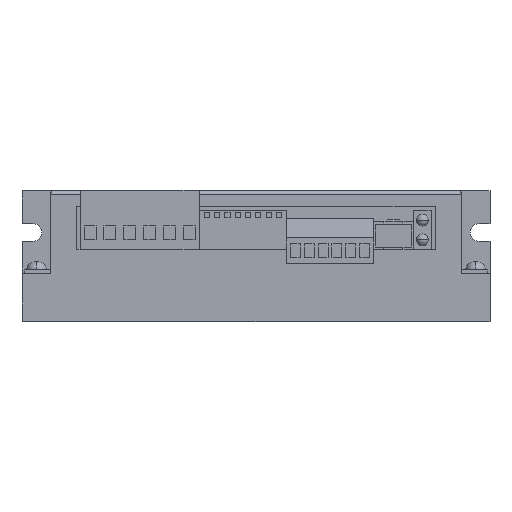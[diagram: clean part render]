
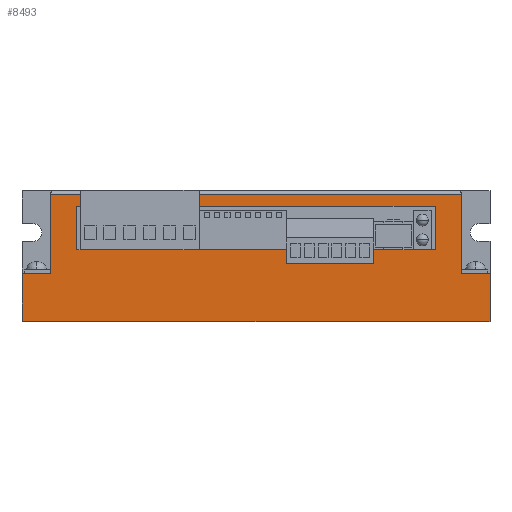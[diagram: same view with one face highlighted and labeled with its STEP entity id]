
A CAD part, top view. The second image highlights one B-rep face of the part: STEP entity #8493.
In plain terms, the highlighted planar face has unit normal (0, 0, 1).
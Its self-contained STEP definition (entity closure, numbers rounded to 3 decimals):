
#74 = EDGE_CURVE ( 'NONE', #10582, #11970, #9123, .T. ) ;
#314 = CARTESIAN_POINT ( 'NONE',  ( 44.66, 18., 0. ) ) ;
#565 = VERTEX_POINT ( 'NONE', #7593 ) ;
#597 = LINE ( 'NONE', #2019, #7292 ) ;
#724 = LINE ( 'NONE', #9328, #5635 ) ;
#764 = ORIENTED_EDGE ( 'NONE', *, *, #10731, .F. ) ;
#882 = ORIENTED_EDGE ( 'NONE', *, *, #11820, .F. ) ;
#951 = VECTOR ( 'NONE', #8562, 1000. ) ;
#1067 = EDGE_CURVE ( 'NONE', #3164, #9899, #3506, .T. ) ;
#1198 = DIRECTION ( 'NONE',  ( 0., -1., 0. ) ) ;
#1351 = CARTESIAN_POINT ( 'NONE',  ( 13.66, 29., 0. ) ) ;
#1387 = EDGE_CURVE ( 'NONE', #11769, #11732, #3151, .T. ) ;
#1500 = LINE ( 'NONE', #12243, #3419 ) ;
#2019 = CARTESIAN_POINT ( 'NONE',  ( 104.16, 18., 0. ) ) ;
#2063 = VERTEX_POINT ( 'NONE', #13768 ) ;
#2085 = DIRECTION ( 'NONE',  ( 0., -1., 0. ) ) ;
#2094 = VECTOR ( 'NONE', #4567, 1000. ) ;
#2145 = VERTEX_POINT ( 'NONE', #7580 ) ;
#2363 = DIRECTION ( 'NONE',  ( 1., 0., 0. ) ) ;
#2380 = CARTESIAN_POINT ( 'NONE',  ( 104.16, 18., 0. ) ) ;
#2439 = DIRECTION ( 'NONE',  ( 1., 0., 0. ) ) ;
#2503 = DIRECTION ( 'NONE',  ( 1., 0., 0. ) ) ;
#2528 = EDGE_CURVE ( 'NONE', #8069, #10961, #4288, .T. ) ;
#2557 = CARTESIAN_POINT ( 'NONE',  ( 98.66, 18., 0. ) ) ;
#2856 = VECTOR ( 'NONE', #5823, 1000. ) ;
#2943 = CARTESIAN_POINT ( 'NONE',  ( 66.66, 18., 0. ) ) ;
#3151 = LINE ( 'NONE', #11822, #3976 ) ;
#3164 = VERTEX_POINT ( 'NONE', #1351 ) ;
#3419 = VECTOR ( 'NONE', #2503, 1000. ) ;
#3501 = CARTESIAN_POINT ( 'NONE',  ( 104.16, 18., 0. ) ) ;
#3506 = LINE ( 'NONE', #5721, #6703 ) ;
#3558 = ORIENTED_EDGE ( 'NONE', *, *, #2528, .T. ) ;
#3756 = EDGE_CURVE ( 'NONE', #11970, #4265, #6704, .T. ) ;
#3957 = ORIENTED_EDGE ( 'NONE', *, *, #4519, .F. ) ;
#3976 = VECTOR ( 'NONE', #6695, 1000. ) ;
#4044 = EDGE_CURVE ( 'NONE', #9899, #2145, #724, .T. ) ;
#4265 = VERTEX_POINT ( 'NONE', #2557 ) ;
#4288 = LINE ( 'NONE', #7768, #11275 ) ;
#4337 = ORIENTED_EDGE ( 'NONE', *, *, #10964, .T. ) ;
#4519 = EDGE_CURVE ( 'NONE', #2145, #10582, #5851, .T. ) ;
#4567 = DIRECTION ( 'NONE',  ( -1., 0., 0. ) ) ;
#4708 = VERTEX_POINT ( 'NONE', #12952 ) ;
#4729 = VECTOR ( 'NONE', #2439, 1000. ) ;
#4878 = ORIENTED_EDGE ( 'NONE', *, *, #4044, .F. ) ;
#4962 = ORIENTED_EDGE ( 'NONE', *, *, #1067, .F. ) ;
#5012 = EDGE_CURVE ( 'NONE', #2063, #565, #10448, .T. ) ;
#5044 = CARTESIAN_POINT ( 'NONE',  ( 118., 33., 0. ) ) ;
#5199 = VERTEX_POINT ( 'NONE', #2380 ) ;
#5484 = ORIENTED_EDGE ( 'NONE', *, *, #6533, .F. ) ;
#5635 = VECTOR ( 'NONE', #8255, 1000. ) ;
#5721 = CARTESIAN_POINT ( 'NONE',  ( 13.66, 18., 0. ) ) ;
#5823 = DIRECTION ( 'NONE',  ( 0., -1., 0. ) ) ;
#5851 = LINE ( 'NONE', #6917, #7177 ) ;
#5937 = DIRECTION ( 'NONE',  ( 1., 0., 0. ) ) ;
#5954 = VERTEX_POINT ( 'NONE', #11667 ) ;
#5961 = LINE ( 'NONE', #8226, #2856 ) ;
#6237 = CARTESIAN_POINT ( 'NONE',  ( 104.16, 29., 0. ) ) ;
#6503 = ORIENTED_EDGE ( 'NONE', *, *, #5012, .F. ) ;
#6533 = EDGE_CURVE ( 'NONE', #11769, #5954, #5961, .T. ) ;
#6695 = DIRECTION ( 'NONE',  ( -1., 0., 0. ) ) ;
#6703 = VECTOR ( 'NONE', #11394, 1000. ) ;
#6704 = LINE ( 'NONE', #7772, #4729 ) ;
#6777 = LINE ( 'NONE', #12172, #2094 ) ;
#6917 = CARTESIAN_POINT ( 'NONE',  ( 0., 18., 0. ) ) ;
#6937 = LINE ( 'NONE', #7934, #8448 ) ;
#7057 = DIRECTION ( 'NONE',  ( 1., 0., 0. ) ) ;
#7078 = CARTESIAN_POINT ( 'NONE',  ( 0., 12., 0. ) ) ;
#7177 = VECTOR ( 'NONE', #7057, 1000. ) ;
#7214 = DIRECTION ( 'NONE',  ( 1., 0., 0. ) ) ;
#7292 = VECTOR ( 'NONE', #7214, 1000. ) ;
#7381 = ORIENTED_EDGE ( 'NONE', *, *, #11767, .F. ) ;
#7410 = CARTESIAN_POINT ( 'NONE',  ( 7.14, 12., 0. ) ) ;
#7570 = VECTOR ( 'NONE', #8440, 1000. ) ;
#7580 = CARTESIAN_POINT ( 'NONE',  ( 14.66, 18., 0. ) ) ;
#7589 = CARTESIAN_POINT ( 'NONE',  ( 0., 12., 0. ) ) ;
#7593 = CARTESIAN_POINT ( 'NONE',  ( 118., 0., 0. ) ) ;
#7677 = DIRECTION ( 'NONE',  ( 0., 0., -1. ) ) ;
#7750 = ORIENTED_EDGE ( 'NONE', *, *, #13584, .F. ) ;
#7768 = CARTESIAN_POINT ( 'NONE',  ( 0., 33., 0. ) ) ;
#7772 = CARTESIAN_POINT ( 'NONE',  ( 104.16, 18., 0. ) ) ;
#7934 = CARTESIAN_POINT ( 'NONE',  ( 7.14, 33., 0. ) ) ;
#8069 = VERTEX_POINT ( 'NONE', #7589 ) ;
#8203 = CARTESIAN_POINT ( 'NONE',  ( 110.86, 32., 0. ) ) ;
#8226 = CARTESIAN_POINT ( 'NONE',  ( 110.86, 33., 0. ) ) ;
#8255 = DIRECTION ( 'NONE',  ( 1., 0., 0. ) ) ;
#8292 = ORIENTED_EDGE ( 'NONE', *, *, #12599, .F. ) ;
#8440 = DIRECTION ( 'NONE',  ( 0., 1., 0. ) ) ;
#8448 = VECTOR ( 'NONE', #13471, 1000. ) ;
#8493 = ADVANCED_FACE ( 'NONE', ( #13153, #10936 ), #8737, .F. ) ;
#8562 = DIRECTION ( 'NONE',  ( 1., 0., 0. ) ) ;
#8737 = PLANE ( 'NONE',  #11303 ) ;
#8815 = ORIENTED_EDGE ( 'NONE', *, *, #1387, .T. ) ;
#8939 = ORIENTED_EDGE ( 'NONE', *, *, #74, .F. ) ;
#9123 = LINE ( 'NONE', #3501, #11659 ) ;
#9278 = LINE ( 'NONE', #7078, #11168 ) ;
#9328 = CARTESIAN_POINT ( 'NONE',  ( 104.16, 18., 0. ) ) ;
#9448 = VECTOR ( 'NONE', #12652, 1000. ) ;
#9463 = ORIENTED_EDGE ( 'NONE', *, *, #3756, .F. ) ;
#9625 = LINE ( 'NONE', #13966, #951 ) ;
#9644 = LINE ( 'NONE', #6237, #7570 ) ;
#9899 = VERTEX_POINT ( 'NONE', #11574 ) ;
#10247 = CARTESIAN_POINT ( 'NONE',  ( 0., 0., 0. ) ) ;
#10448 = LINE ( 'NONE', #5044, #9448 ) ;
#10582 = VERTEX_POINT ( 'NONE', #314 ) ;
#10731 = EDGE_CURVE ( 'NONE', #4265, #5199, #597, .T. ) ;
#10936 = FACE_OUTER_BOUND ( 'NONE', #12919, .T. ) ;
#10961 = VERTEX_POINT ( 'NONE', #10247 ) ;
#10964 = EDGE_CURVE ( 'NONE', #10961, #565, #1500, .T. ) ;
#11168 = VECTOR ( 'NONE', #5937, 1000. ) ;
#11275 = VECTOR ( 'NONE', #2085, 1000. ) ;
#11303 = AXIS2_PLACEMENT_3D ( 'NONE', #13078, #7677, #1198 ) ;
#11394 = DIRECTION ( 'NONE',  ( 0., -1., 0. ) ) ;
#11574 = CARTESIAN_POINT ( 'NONE',  ( 13.66, 18., 0. ) ) ;
#11659 = VECTOR ( 'NONE', #2363, 1000. ) ;
#11667 = CARTESIAN_POINT ( 'NONE',  ( 110.86, 12., 0. ) ) ;
#11732 = VERTEX_POINT ( 'NONE', #12478 ) ;
#11767 = EDGE_CURVE ( 'NONE', #8069, #12836, #9278, .T. ) ;
#11769 = VERTEX_POINT ( 'NONE', #8203 ) ;
#11820 = EDGE_CURVE ( 'NONE', #12836, #11732, #6937, .T. ) ;
#11822 = CARTESIAN_POINT ( 'NONE',  ( 0., 32., 0. ) ) ;
#11949 = EDGE_CURVE ( 'NONE', #5954, #2063, #9625, .T. ) ;
#11970 = VERTEX_POINT ( 'NONE', #2943 ) ;
#12172 = CARTESIAN_POINT ( 'NONE',  ( 13.66, 29., 0. ) ) ;
#12243 = CARTESIAN_POINT ( 'NONE',  ( 0., 0., 0. ) ) ;
#12478 = CARTESIAN_POINT ( 'NONE',  ( 7.14, 32., 0. ) ) ;
#12599 = EDGE_CURVE ( 'NONE', #4708, #3164, #6777, .T. ) ;
#12652 = DIRECTION ( 'NONE',  ( 0., -1., 0. ) ) ;
#12836 = VERTEX_POINT ( 'NONE', #7410 ) ;
#12919 = EDGE_LOOP ( 'NONE', ( #5484, #8815, #882, #7381, #3558, #4337, #6503, #13564 ) ) ;
#12952 = CARTESIAN_POINT ( 'NONE',  ( 104.16, 29., 0. ) ) ;
#13078 = CARTESIAN_POINT ( 'NONE',  ( 0., 33., 0. ) ) ;
#13153 = FACE_BOUND ( 'NONE', #13861, .T. ) ;
#13471 = DIRECTION ( 'NONE',  ( 0., 1., 0. ) ) ;
#13564 = ORIENTED_EDGE ( 'NONE', *, *, #11949, .F. ) ;
#13584 = EDGE_CURVE ( 'NONE', #5199, #4708, #9644, .T. ) ;
#13768 = CARTESIAN_POINT ( 'NONE',  ( 118., 12., 0. ) ) ;
#13861 = EDGE_LOOP ( 'NONE', ( #4962, #8292, #7750, #764, #9463, #8939, #3957, #4878 ) ) ;
#13966 = CARTESIAN_POINT ( 'NONE',  ( 118., 12., 0. ) ) ;
